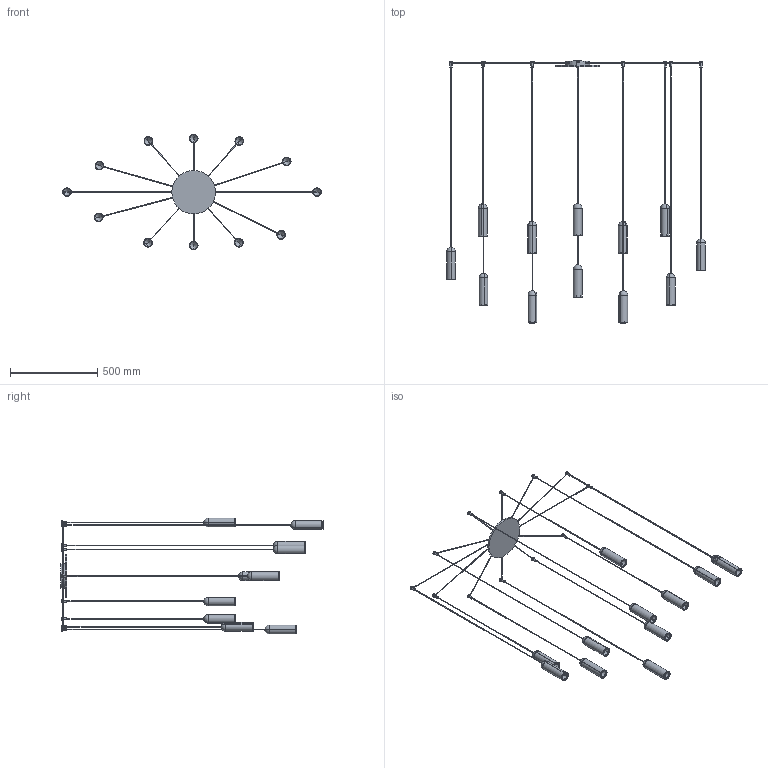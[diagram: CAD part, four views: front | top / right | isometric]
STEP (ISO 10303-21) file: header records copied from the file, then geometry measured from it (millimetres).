
FILE_DESCRIPTION (( 'STEP AP203' ), '1' );
FILE_NAME ('NANA8-00-NANUM_12_A sospensione.STEP', '2025-05-05T14:41:17', ( '' ), ( '' ), 'SwSTEP 2.0', 'SolidWorks 2022', '' );
FILE_SCHEMA (( 'CONFIG_CONTROL_DESIGN' ));
Length unit declared in the file: millimetre
Products named in the file (9): NANA8-00-NANUM_12_A sospensione; NANUM_LAMPADA SINGOLA_H=1750; NANUM_LAMPADA SINGOLA_H=1600; NANUM_LAMPADA SINGOLA_H=1900; NANUM_LAMPADA SINGOLA_H=1650; NANUM_LAMPADA SINGOLA_H=1500; NANUM_LAMPADA SINGOLA_H=2000; NANUM_LAMPADA SINGOLA_H=1800; Nanum_Rosone_NANUM_12 sospensione<A macchina>
Assembly tree (13 placements, depth 2):
  NANA8-00-NANUM_12_A sospensione
    Nanum_Rosone_NANUM_12 sospensione<A macchina>
    NANUM_LAMPADA SINGOLA_H=1750
    NANUM_LAMPADA SINGOLA_H=2000  x3
    NANUM_LAMPADA SINGOLA_H=1900  x2
    NANUM_LAMPADA SINGOLA_H=1650
    NANUM_LAMPADA SINGOLA_H=1800
    NANUM_LAMPADA SINGOLA_H=1600  x2
    NANUM_LAMPADA SINGOLA_H=1500  x2
Bounding box: 1485 x 1504.5 x 664 mm (x, y, z)
Volume: 1961912.6 mm3; surface area: 1082033.9 mm2
Topology: 37 solids, 37 shells, 463 faces, 1005 edges, 569 vertices
Faces by surface type: cylinder 246, plane 97, cone 48, sphere 48, torus 24
Entity records: 8963 total; most frequent: CARTESIAN_POINT 1842, DIRECTION 1412, ORIENTED_EDGE 1122, AXIS2_PLACEMENT_3D 617, EDGE_CURVE 561, VERTEX_POINT 341, EDGE_LOOP 332, FACE_OUTER_BOUND 303
